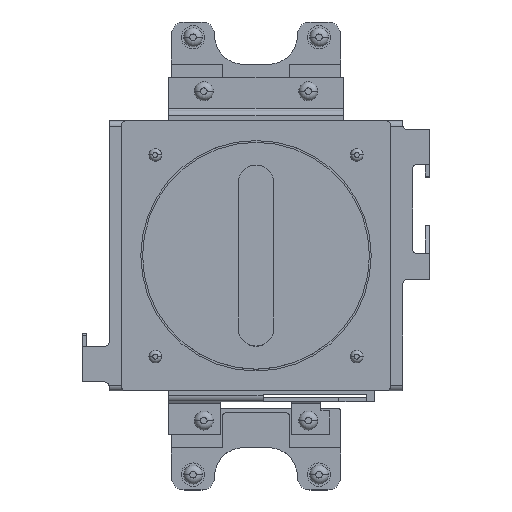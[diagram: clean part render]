
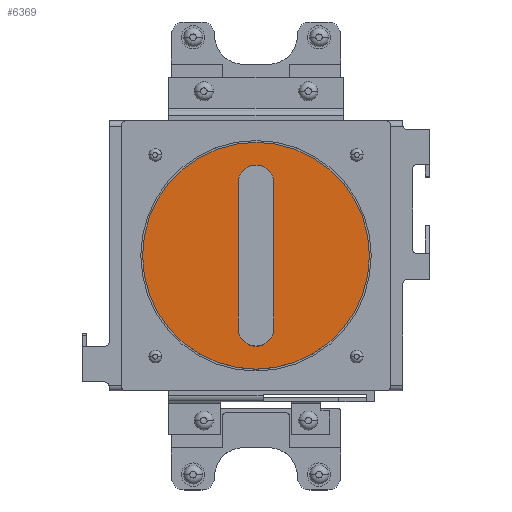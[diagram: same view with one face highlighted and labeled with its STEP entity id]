
A CAD part, top view. The second image highlights one B-rep face of the part: STEP entity #6369.
In plain terms, the highlighted planar face has unit normal (0, 0, 1).
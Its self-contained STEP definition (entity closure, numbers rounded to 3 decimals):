
#3241 = EDGE_CURVE( '', #4557, #6457, #7979, .T. );
#4557 = VERTEX_POINT( '', #9442 );
#4747 = EDGE_CURVE( '', #6299, #6939, #9650, .T. );
#4869 = EDGE_CURVE( '', #5967, #5917, #9783, .T. );
#4893 = EDGE_CURVE( '', #6457, #5967, #9808, .T. );
#5477 = EDGE_CURVE( '', #5917, #4557, #10438, .T. );
#5917 = VERTEX_POINT( '', #10926 );
#5967 = VERTEX_POINT( '', #10981 );
#6099 = EDGE_CURVE( '', #6939, #6299, #11124, .T. );
#6299 = VERTEX_POINT( '', #11347 );
#6369 = ADVANCED_FACE( '', ( #11426, #11427 ), #11428, .T. );
#6457 = VERTEX_POINT( '', #11531 );
#6939 = VERTEX_POINT( '', #12082 );
#7979 = LINE( '', #13432, #13433 );
#9442 = CARTESIAN_POINT( '', ( -10., -40.25, 28.502 ) );
#9650 = CIRCLE( '', #15673, 63. );
#9783 = LINE( '', #15856, #15857 );
#9808 = CIRCLE( '', #15889, 10. );
#10438 = CIRCLE( '', #16755, 10. );
#10926 = CARTESIAN_POINT( '', ( 10., -40.25, 28.502 ) );
#10981 = CARTESIAN_POINT( '', ( 10., 40.25, 28.502 ) );
#11124 = CIRCLE( '', #17692, 63. );
#11347 = CARTESIAN_POINT( '', ( -63., 0., 28.502 ) );
#11426 = FACE_BOUND( '', #18091, .T. );
#11427 = FACE_OUTER_BOUND( '', #18092, .T. );
#11428 = PLANE( '', #18093 );
#11531 = CARTESIAN_POINT( '', ( -10., 40.25, 28.502 ) );
#12082 = CARTESIAN_POINT( '', ( 63., 0., 28.502 ) );
#13432 = CARTESIAN_POINT( '', ( -10., -20.125, 28.502 ) );
#13433 = VECTOR( '', #20067, 1. );
#15673 = AXIS2_PLACEMENT_3D( '', #22042, #22043, #22044 );
#15856 = CARTESIAN_POINT( '', ( 10., 20.125, 28.502 ) );
#15857 = VECTOR( '', #22200, 1. );
#15889 = AXIS2_PLACEMENT_3D( '', #22216, #22217, #22218 );
#16755 = AXIS2_PLACEMENT_3D( '', #22870, #22871, #22872 );
#17692 = AXIS2_PLACEMENT_3D( '', #23706, #23707, #23708 );
#18091 = EDGE_LOOP( '', ( #24092, #24093, #24094, #24095 ) );
#18092 = EDGE_LOOP( '', ( #24096, #24097 ) );
#18093 = AXIS2_PLACEMENT_3D( '', #24098, #24099, #24100 );
#20067 = DIRECTION( '', ( 0., 1., 0. ) );
#22042 = CARTESIAN_POINT( '', ( 0., 0., 28.502 ) );
#22043 = DIRECTION( '', ( 0., 0., -1. ) );
#22044 = DIRECTION( '', ( 1., 0., 0. ) );
#22200 = DIRECTION( '', ( 0., -1., 0. ) );
#22216 = CARTESIAN_POINT( '', ( 0., 40.25, 28.502 ) );
#22217 = DIRECTION( '', ( 0., 0., -1. ) );
#22218 = DIRECTION( '', ( 1., 0., 0. ) );
#22870 = CARTESIAN_POINT( '', ( 0., -40.25, 28.502 ) );
#22871 = DIRECTION( '', ( 0., 0., -1. ) );
#22872 = DIRECTION( '', ( -1., 0., 0. ) );
#23706 = CARTESIAN_POINT( '', ( 0., 0., 28.502 ) );
#23707 = DIRECTION( '', ( 0., 0., -1. ) );
#23708 = DIRECTION( '', ( 1., 0., 0. ) );
#24092 = ORIENTED_EDGE( '', *, *, #3241, .T. );
#24093 = ORIENTED_EDGE( '', *, *, #4893, .T. );
#24094 = ORIENTED_EDGE( '', *, *, #4869, .T. );
#24095 = ORIENTED_EDGE( '', *, *, #5477, .T. );
#24096 = ORIENTED_EDGE( '', *, *, #6099, .F. );
#24097 = ORIENTED_EDGE( '', *, *, #4747, .F. );
#24098 = CARTESIAN_POINT( '', ( 0., 0., 28.502 ) );
#24099 = DIRECTION( '', ( 0., 0., 1. ) );
#24100 = DIRECTION( '', ( 0., -1., 0. ) );
